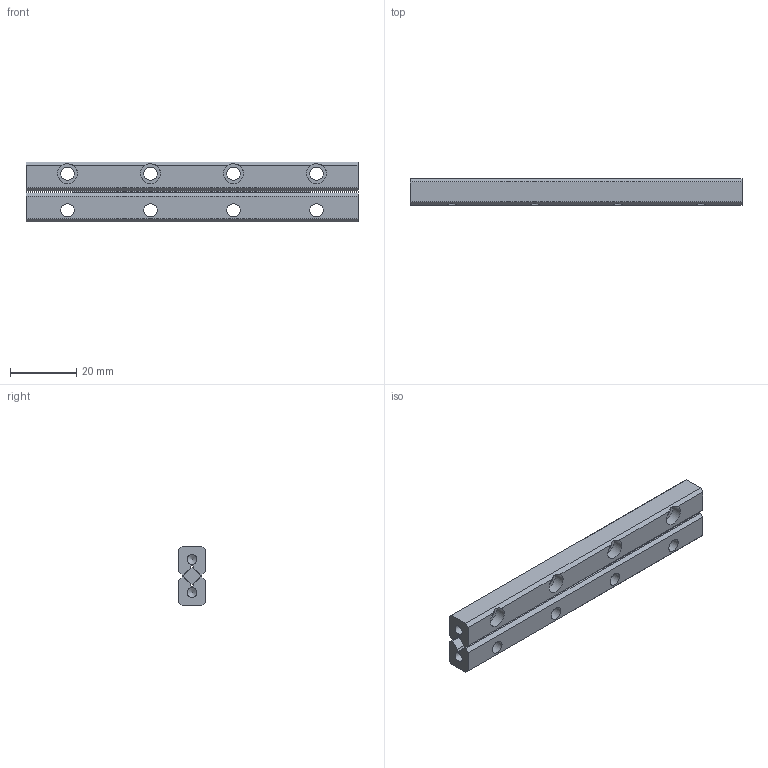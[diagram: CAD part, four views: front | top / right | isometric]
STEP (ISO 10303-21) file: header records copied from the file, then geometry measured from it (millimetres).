
FILE_DESCRIPTION((''),'2;1');
FILE_NAME('D:\製品 (図面)\カタログ用3D\リニアガイド関連\STEP形式\ACS3\ACS3100.stp','2010-07-29T15:29:09',('Tsuchiya'),(''),'Autodesk Inventor 10','Autodesk Inventor 10','');
FILE_SCHEMA(('AUTOMOTIVE_DESIGN { 1 0 10303 214 1 1 1 1 }'));
Length unit declared in the file: millimetre
Products named in the file (4): ACS3100; ACS31001; ACS31002; ACS31003
Assembly tree (3 placements, depth 2):
  ACS3100
    ACS31001
    ACS31002
    ACS31003
Bounding box: 100 x 8 x 18 mm (x, y, z)
Volume: 11799.2 mm3; surface area: 9176.3 mm2
Topology: 3 solids, 3 shells, 86 faces, 226 edges, 150 vertices
Faces by surface type: plane 52, bspline 28, cylinder 4, cone 2
Full cylindrical faces by diameter (mm): 3 x2
Entity records: 2795 total; most frequent: CARTESIAN_POINT 781, ORIENTED_EDGE 376, DIRECTION 370, EDGE_CURVE 188, VERTEX_POINT 136, VECTOR 136, LINE 136, EDGE_LOOP 130
